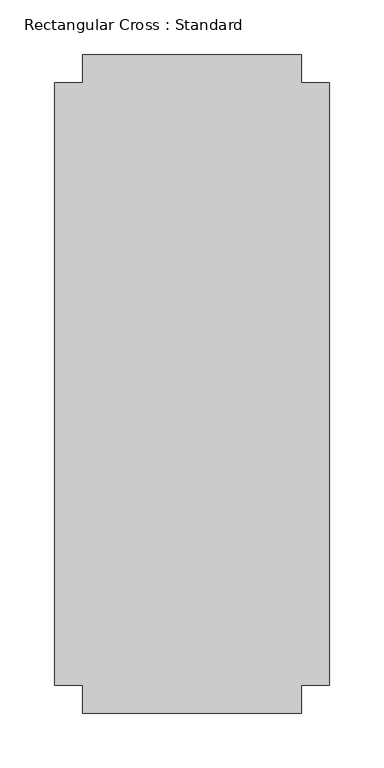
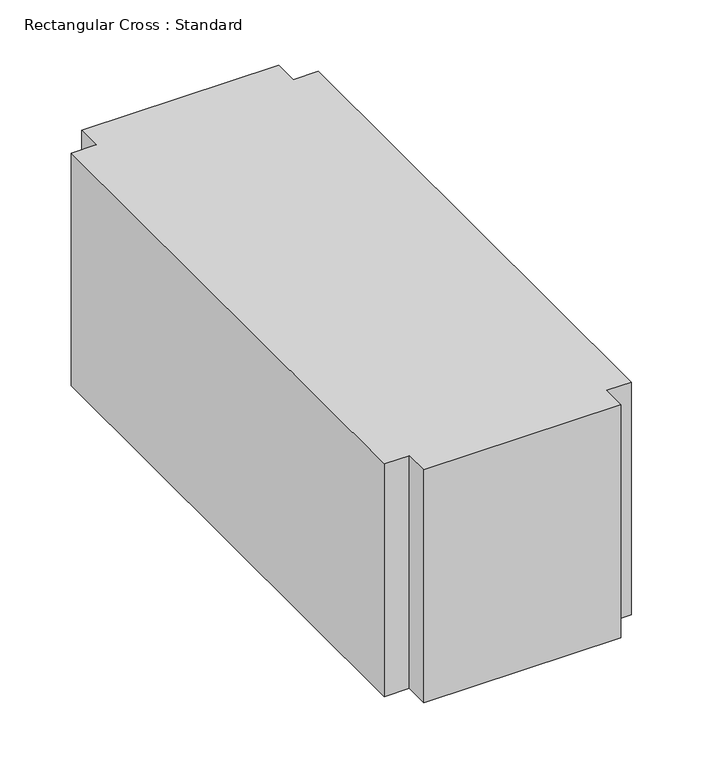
"""IFC4 building model written with IfcOpenShell, lengths in millimetres: duct fitting geometry, Rectangular Cross : Standard."""

from ifc_helpers import new_model, si_unit, frame, origin, place, context, project, spatial, polyline, outline, extrude, source, transform, mapped, element, save


def rectangular_cross_standard_e33e2d2a(model_context):
    return source(origin(), model_context, "Body", "SweptSolid", [
        extrude(outline(polyline([(100.0, -300.4), (-100.0, -300.4), (-100.0, -275.0), (-125.4, -275.0), (-125.4, 275.0), (-100.0, 275.0), (-100.0, 300.4), (100.0, 300.4), (100.0, 275.0), (125.4, 275.0), (125.4, -275.0), (100.0, -275.0), (100.0, -300.4)])), frame((0.0, 0.0, -125.0), z_axis=(0.0, 0.0, 1.0), x_axis=(1.0, 0.0, 0.0)), (0.0, 0.0, 1.0), 250.0),
    ])


if __name__ == "__main__":
    model = new_model("IFC4")
    model_context = context("Model", 3, world=origin())
    ifc_project = project(units=[si_unit("LENGTHUNIT", "METRE", prefix="MILLI")], contexts=[model_context])
    site = spatial("IfcSite", under=ifc_project)
    building = spatial("IfcBuilding", under=site)
    placement = place(None, origin())
    rectangular_cross_standard_shape = rectangular_cross_standard_e33e2d2a(model_context)
    element("IfcDuctFitting", 1, ObjectType="Rectangular Cross : Standard", at=placement, inside=building, context=model_context, shape_type="MappedRepresentation", body=[
        mapped(rectangular_cross_standard_shape, transform((0.0, 0.0, 0.0), x_axis=(1.0, 0.0, 0.0), y_axis=(0.0, 1.0, 0.0), z_axis=(0.0, 0.0, 1.0))),
    ])
    save(model, "model.ifc")
